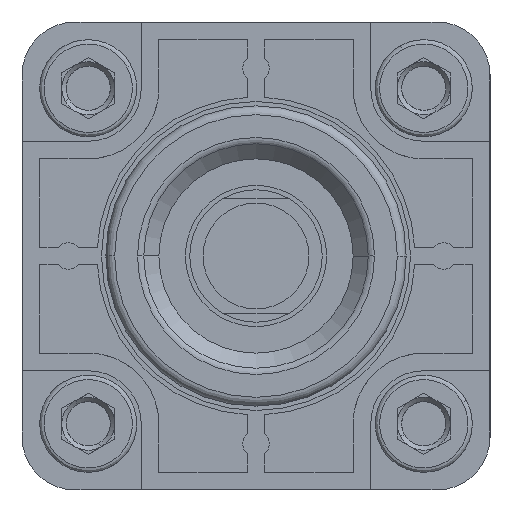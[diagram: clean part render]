
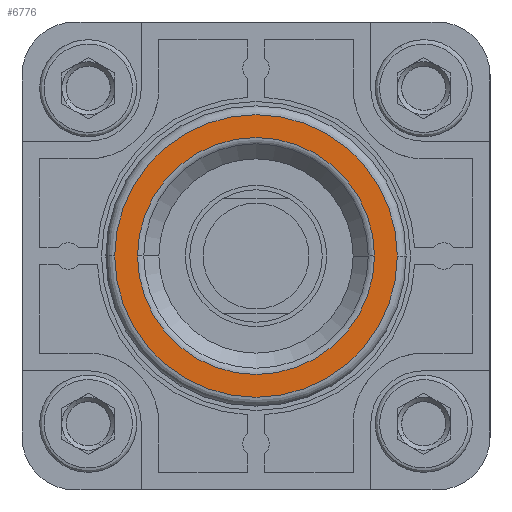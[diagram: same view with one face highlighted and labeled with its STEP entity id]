
A CAD part, left-side view. The second image highlights one B-rep face of the part: STEP entity #6776.
In plain terms, the highlighted planar face has unit normal (-1, 0, 0).
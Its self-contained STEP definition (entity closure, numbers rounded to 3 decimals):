
#5473=CARTESIAN_POINT('Vertex',(-53.5,-16.,0.)) ;
#5480=CARTESIAN_POINT('Vertex',(-53.5,16.,0.)) ;
#5483=CARTESIAN_POINT('Axis2P3D Location',(-53.5,0.,0.)) ;
#5500=CARTESIAN_POINT('Axis2P3D Location',(-53.5,0.,0.)) ;
#6749=CARTESIAN_POINT('Axis2P3D Location',(-53.5,0.,0.)) ;
#6758=CARTESIAN_POINT('Axis2P3D Location',(-53.5,0.,0.)) ;
#6762=CARTESIAN_POINT('Vertex',(-53.5,13.414,0.)) ;
#6764=CARTESIAN_POINT('Vertex',(-53.5,-13.414,0.)) ;
#6767=CARTESIAN_POINT('Axis2P3D Location',(-53.5,0.,0.)) ;
#5484=DIRECTION('Axis2P3D Direction',(-1.,-0.,0.)) ;
#5501=DIRECTION('Axis2P3D Direction',(-1.,0.,0.)) ;
#6750=DIRECTION('Axis2P3D Direction',(-1.,0.,0.)) ;
#6751=DIRECTION('Axis2P3D XDirection',(0.,-1.,0.)) ;
#6759=DIRECTION('Axis2P3D Direction',(-1.,0.,0.)) ;
#6768=DIRECTION('Axis2P3D Direction',(-1.,0.,0.)) ;
#5485=AXIS2_PLACEMENT_3D('Circle Axis2P3D',#5483,#5484,$) ;
#5502=AXIS2_PLACEMENT_3D('Circle Axis2P3D',#5500,#5501,$) ;
#6752=AXIS2_PLACEMENT_3D('Plane Axis2P3D',#6749,#6750,#6751) ;
#6760=AXIS2_PLACEMENT_3D('Circle Axis2P3D',#6758,#6759,$) ;
#6769=AXIS2_PLACEMENT_3D('Circle Axis2P3D',#6767,#6768,$) ;
#6755=ORIENTED_EDGE('',*,*,#5504,.T.) ;
#6756=ORIENTED_EDGE('',*,*,#5487,.T.) ;
#6773=ORIENTED_EDGE('',*,*,#6766,.T.) ;
#6774=ORIENTED_EDGE('',*,*,#6771,.T.) ;
#6775=FACE_BOUND('',#6772,.T.) ;
#6776=ADVANCED_FACE('PartBody',(#6757,#6775),#6753,.T.) ;
#5486=CIRCLE('generated circle',#5485,16.) ;
#5503=CIRCLE('generated circle',#5502,16.) ;
#6761=CIRCLE('generated circle',#6760,13.414) ;
#6770=CIRCLE('generated circle',#6769,13.414) ;
#5487=EDGE_CURVE('',#5474,#5481,#5486,.T.) ;
#5504=EDGE_CURVE('',#5481,#5474,#5503,.T.) ;
#6766=EDGE_CURVE('',#6763,#6765,#6761,.F.) ;
#6771=EDGE_CURVE('',#6765,#6763,#6770,.F.) ;
#6754=EDGE_LOOP('',(#6755,#6756)) ;
#6772=EDGE_LOOP('',(#6773,#6774)) ;
#6757=FACE_OUTER_BOUND('',#6754,.T.) ;
#6753=PLANE('',#6752) ;
#5474=VERTEX_POINT('',#5473) ;
#5481=VERTEX_POINT('',#5480) ;
#6763=VERTEX_POINT('',#6762) ;
#6765=VERTEX_POINT('',#6764) ;
